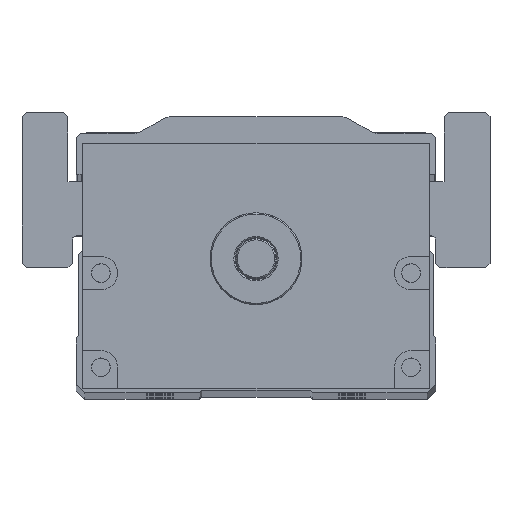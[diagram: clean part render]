
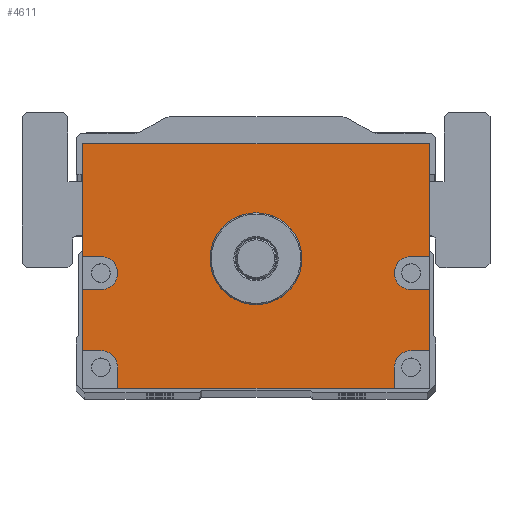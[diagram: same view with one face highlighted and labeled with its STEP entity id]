
A CAD part, top view. The second image highlights one B-rep face of the part: STEP entity #4611.
In plain terms, the highlighted planar face has unit normal (0, 0, 1).
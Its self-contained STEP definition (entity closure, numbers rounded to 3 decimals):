
#3929=FACE_BOUND('',#6337,.T.);
#3930=FACE_BOUND('',#6338,.T.);
#4611=ADVANCED_FACE('',(#3929,#3930),#5131,.T.);
#5131=PLANE('',#15827);
#6337=EDGE_LOOP('',(#10340,#10341,#10342,#10343,#10344,#10345,#10346,#10347,
#10348,#10349,#10350,#10351,#10352,#10353,#10354,#10355,#10356,#10357));
#6338=EDGE_LOOP('',(#10358));
#7258=LINE('',#22833,#8078);
#7260=LINE('',#22841,#8080);
#7261=LINE('',#22844,#8081);
#7262=LINE('',#22846,#8082);
#7263=LINE('',#22850,#8083);
#7264=LINE('',#22852,#8084);
#7265=LINE('',#22853,#8085);
#7266=LINE('',#22855,#8086);
#7267=LINE('',#22859,#8087);
#7268=LINE('',#22861,#8088);
#7269=LINE('',#22863,#8089);
#7270=LINE('',#22867,#8090);
#7271=LINE('',#22869,#8091);
#7272=LINE('',#22871,#8092);
#8078=VECTOR('',#18160,1.);
#8080=VECTOR('',#18168,1.);
#8081=VECTOR('',#18169,1.);
#8082=VECTOR('',#18170,1.);
#8083=VECTOR('',#18173,1.);
#8084=VECTOR('',#18174,1.);
#8085=VECTOR('',#18175,1.);
#8086=VECTOR('',#18176,1.);
#8087=VECTOR('',#18179,1.);
#8088=VECTOR('',#18180,1.);
#8089=VECTOR('',#18181,1.);
#8090=VECTOR('',#18184,1.);
#8091=VECTOR('',#18185,1.);
#8092=VECTOR('',#18186,1.);
#10340=ORIENTED_EDGE('',*,*,#13931,.F.);
#10341=ORIENTED_EDGE('',*,*,#13932,.T.);
#10342=ORIENTED_EDGE('',*,*,#13933,.F.);
#10343=ORIENTED_EDGE('',*,*,#13934,.F.);
#10344=ORIENTED_EDGE('',*,*,#13935,.F.);
#10345=ORIENTED_EDGE('',*,*,#13936,.T.);
#10346=ORIENTED_EDGE('',*,*,#13927,.T.);
#10347=ORIENTED_EDGE('',*,*,#13937,.T.);
#10348=ORIENTED_EDGE('',*,*,#13938,.F.);
#10349=ORIENTED_EDGE('',*,*,#13939,.F.);
#10350=ORIENTED_EDGE('',*,*,#13940,.F.);
#10351=ORIENTED_EDGE('',*,*,#13941,.T.);
#10352=ORIENTED_EDGE('',*,*,#13942,.F.);
#10353=ORIENTED_EDGE('',*,*,#13943,.F.);
#10354=ORIENTED_EDGE('',*,*,#13944,.F.);
#10355=ORIENTED_EDGE('',*,*,#13945,.T.);
#10356=ORIENTED_EDGE('',*,*,#13946,.F.);
#10357=ORIENTED_EDGE('',*,*,#13947,.F.);
#10358=ORIENTED_EDGE('',*,*,#13913,.T.);
#12445=VERTEX_POINT('',#22804);
#12458=VERTEX_POINT('',#22832);
#12459=VERTEX_POINT('',#22834);
#12462=VERTEX_POINT('',#22842);
#12463=VERTEX_POINT('',#22843);
#12464=VERTEX_POINT('',#22845);
#12465=VERTEX_POINT('',#22847);
#12466=VERTEX_POINT('',#22849);
#12467=VERTEX_POINT('',#22851);
#12468=VERTEX_POINT('',#22854);
#12469=VERTEX_POINT('',#22856);
#12470=VERTEX_POINT('',#22858);
#12471=VERTEX_POINT('',#22860);
#12472=VERTEX_POINT('',#22862);
#12473=VERTEX_POINT('',#22864);
#12474=VERTEX_POINT('',#22866);
#12475=VERTEX_POINT('',#22868);
#12476=VERTEX_POINT('',#22870);
#12477=VERTEX_POINT('',#22872);
#13913=EDGE_CURVE('',#12445,#12445,#14911,.T.);
#13927=EDGE_CURVE('',#12459,#12458,#7258,.T.);
#13931=EDGE_CURVE('',#12462,#12463,#7260,.T.);
#13932=EDGE_CURVE('',#12462,#12464,#7261,.T.);
#13933=EDGE_CURVE('',#12465,#12464,#7262,.T.);
#13934=EDGE_CURVE('',#12466,#12465,#14922,.T.);
#13935=EDGE_CURVE('',#12467,#12466,#7263,.T.);
#13936=EDGE_CURVE('',#12467,#12459,#7264,.T.);
#13937=EDGE_CURVE('',#12458,#12468,#7265,.T.);
#13938=EDGE_CURVE('',#12469,#12468,#7266,.T.);
#13939=EDGE_CURVE('',#12470,#12469,#14923,.T.);
#13940=EDGE_CURVE('',#12471,#12470,#7267,.T.);
#13941=EDGE_CURVE('',#12471,#12472,#7268,.T.);
#13942=EDGE_CURVE('',#12473,#12472,#7269,.T.);
#13943=EDGE_CURVE('',#12474,#12473,#14924,.T.);
#13944=EDGE_CURVE('',#12475,#12474,#7270,.T.);
#13945=EDGE_CURVE('',#12475,#12476,#7271,.T.);
#13946=EDGE_CURVE('',#12477,#12476,#7272,.T.);
#13947=EDGE_CURVE('',#12463,#12477,#14925,.T.);
#14911=CIRCLE('',#15809,11.);
#14922=CIRCLE('',#15823,4.);
#14923=CIRCLE('',#15824,4.);
#14924=CIRCLE('',#15825,4.);
#14925=CIRCLE('',#15826,4.);
#15809=AXIS2_PLACEMENT_3D('',#22803,#18133,#18134);
#15823=AXIS2_PLACEMENT_3D('',#22848,#18171,#18172);
#15824=AXIS2_PLACEMENT_3D('',#22857,#18177,#18178);
#15825=AXIS2_PLACEMENT_3D('',#22865,#18182,#18183);
#15826=AXIS2_PLACEMENT_3D('',#22873,#18187,#18188);
#15827=AXIS2_PLACEMENT_3D('',#22874,#18189,#18190);
#18133=DIRECTION('',(0.,0.,-1.));
#18134=DIRECTION('',(1.,0.,0.));
#18160=DIRECTION('',(-1.,0.,0.));
#18168=DIRECTION('',(-1.,0.,0.));
#18169=DIRECTION('',(0.,1.,0.));
#18170=DIRECTION('',(1.,0.,0.));
#18171=DIRECTION('',(0.,0.,1.));
#18172=DIRECTION('',(1.,0.,0.));
#18173=DIRECTION('',(-1.,0.,0.));
#18174=DIRECTION('',(0.,1.,0.));
#18175=DIRECTION('',(0.,-1.,0.));
#18176=DIRECTION('',(-1.,0.,0.));
#18177=DIRECTION('',(0.,0.,1.));
#18178=DIRECTION('',(1.,0.,0.));
#18179=DIRECTION('',(1.,0.,0.));
#18180=DIRECTION('',(0.,-1.,0.));
#18181=DIRECTION('',(-1.,0.,0.));
#18182=DIRECTION('',(0.,0.,1.));
#18183=DIRECTION('',(1.,0.,0.));
#18184=DIRECTION('',(0.,1.,0.));
#18185=DIRECTION('',(1.,0.,0.));
#18186=DIRECTION('',(0.,-1.,0.));
#18187=DIRECTION('',(0.,0.,1.));
#18188=DIRECTION('',(1.,0.,0.));
#18189=DIRECTION('',(0.,0.,1.));
#18190=DIRECTION('',(1.,0.,0.));
#22803=CARTESIAN_POINT('',(0.,0.,782.5));
#22804=CARTESIAN_POINT('',(11.,0.,782.5));
#22832=CARTESIAN_POINT('',(-41.5,27.5,782.5));
#22833=CARTESIAN_POINT('',(41.5,27.5,782.5));
#22834=CARTESIAN_POINT('',(41.5,27.5,782.5));
#22841=CARTESIAN_POINT('',(41.5,-22.,782.5));
#22842=CARTESIAN_POINT('',(41.5,-22.,782.5));
#22843=CARTESIAN_POINT('',(37.115,-22.,782.5));
#22844=CARTESIAN_POINT('',(41.5,-31.,782.5));
#22845=CARTESIAN_POINT('',(41.5,-7.431,782.5));
#22846=CARTESIAN_POINT('',(41.5,-7.431,782.5));
#22847=CARTESIAN_POINT('',(37.115,-7.431,782.5));
#22848=CARTESIAN_POINT('',(37.115,-3.431,782.5));
#22849=CARTESIAN_POINT('',(37.115,0.569,782.5));
#22850=CARTESIAN_POINT('',(41.5,0.569,782.5));
#22851=CARTESIAN_POINT('',(41.5,0.569,782.5));
#22852=CARTESIAN_POINT('',(41.5,-31.,782.5));
#22853=CARTESIAN_POINT('',(-41.5,27.5,782.5));
#22854=CARTESIAN_POINT('',(-41.5,0.569,782.5));
#22855=CARTESIAN_POINT('',(41.5,0.569,782.5));
#22856=CARTESIAN_POINT('',(-37.115,0.569,782.5));
#22857=CARTESIAN_POINT('',(-37.115,-3.431,782.5));
#22858=CARTESIAN_POINT('',(-37.115,-7.431,782.5));
#22859=CARTESIAN_POINT('',(41.5,-7.431,782.5));
#22860=CARTESIAN_POINT('',(-41.5,-7.431,782.5));
#22861=CARTESIAN_POINT('',(-41.5,27.5,782.5));
#22862=CARTESIAN_POINT('',(-41.5,-22.,782.5));
#22863=CARTESIAN_POINT('',(41.5,-22.,782.5));
#22864=CARTESIAN_POINT('',(-37.115,-22.,782.5));
#22865=CARTESIAN_POINT('',(-37.115,-26.,782.5));
#22866=CARTESIAN_POINT('',(-33.115,-26.,782.5));
#22867=CARTESIAN_POINT('',(-33.115,-31.,782.5));
#22868=CARTESIAN_POINT('',(-33.115,-31.,782.5));
#22869=CARTESIAN_POINT('',(-41.5,-31.,782.5));
#22870=CARTESIAN_POINT('',(33.115,-31.,782.5));
#22871=CARTESIAN_POINT('',(33.115,-31.,782.5));
#22872=CARTESIAN_POINT('',(33.115,-26.,782.5));
#22873=CARTESIAN_POINT('',(37.115,-26.,782.5));
#22874=CARTESIAN_POINT('',(41.5,-31.,782.5));
